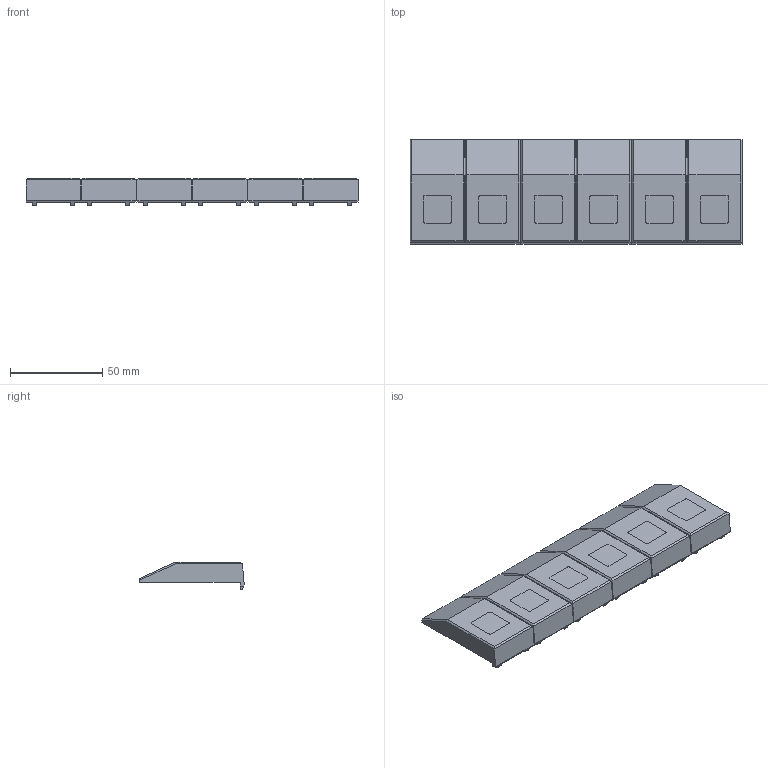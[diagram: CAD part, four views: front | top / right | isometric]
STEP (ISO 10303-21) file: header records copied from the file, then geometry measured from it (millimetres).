
FILE_DESCRIPTION(/* description */ (''),/* implementation_level */ '2;1');
FILE_NAME(/* name */ 'LA-1371-0189#-A.stp',/* time_stamp */ '2012-09-04T15:01:47+01:00',/* author */ (''),/* organization */ (''),/* preprocessor_version */ 'ST-DEVELOPER v11',/* originating_system */ 'SIEMENS PLM Software NX 7.5',/* authorisation */ '');
FILE_SCHEMA (('AUTOMOTIVE_DESIGN { 1 0 10303 214 1 1 1 1 }'));
Length unit declared in the file: millimetre
Products named in the file (1): rt133622tjtb
Bounding box: 179.5 x 56.5 x 14.85 mm (x, y, z)
Volume: 93029 mm3; surface area: 29147.1 mm2
Topology: 6 solids, 6 shells, 162 faces, 456 edges, 312 vertices
Faces by surface type: plane 120, bspline 30, cylinder 12
Entity records: 6355 total; most frequent: CARTESIAN_POINT 1051, ORIENTED_EDGE 912, DIRECTION 740, EDGE_CURVE 456, LINE 378, VECTOR 378, VERTEX_POINT 312, AXIS2_PLACEMENT_3D 181
